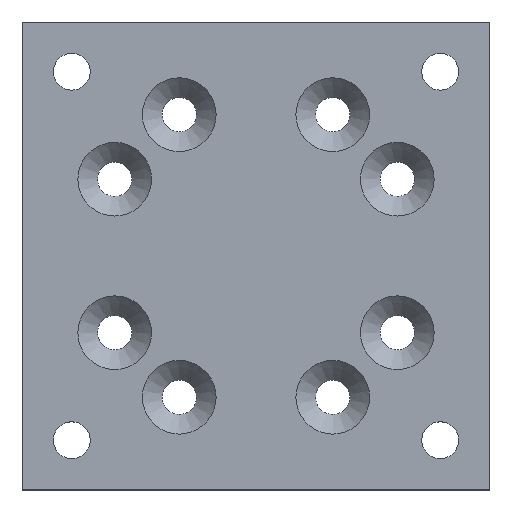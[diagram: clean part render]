
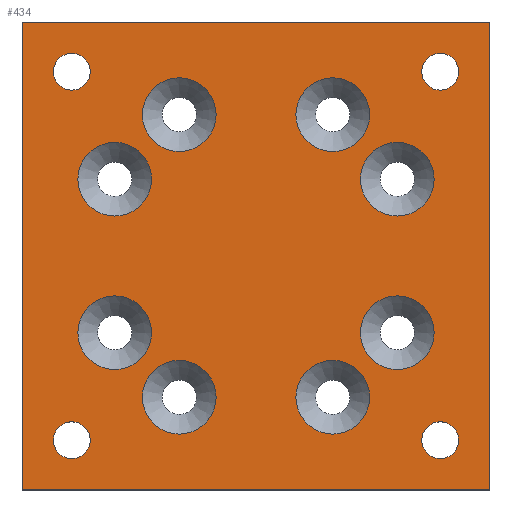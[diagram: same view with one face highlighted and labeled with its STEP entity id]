
A CAD part, top view. The second image highlights one B-rep face of the part: STEP entity #434.
In plain terms, the highlighted planar face has unit normal (0, 0, 1).
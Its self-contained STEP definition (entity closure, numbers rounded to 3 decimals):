
#15=LINE('',#699,#27);
#19=LINE('',#707,#31);
#22=LINE('',#733,#34);
#25=LINE('',#738,#37);
#27=VECTOR('',#585,10.);
#31=VECTOR('',#591,10.);
#34=VECTOR('',#620,10.);
#37=VECTOR('',#625,10.);
#44=PLANE('',#500);
#89=FACE_BOUND('',#185,.T.);
#90=FACE_BOUND('',#186,.T.);
#91=FACE_BOUND('',#187,.T.);
#92=FACE_BOUND('',#188,.T.);
#93=FACE_BOUND('',#189,.T.);
#94=FACE_BOUND('',#190,.T.);
#95=FACE_BOUND('',#191,.T.);
#96=FACE_BOUND('',#192,.T.);
#97=FACE_BOUND('',#193,.T.);
#98=FACE_BOUND('',#194,.T.);
#99=FACE_BOUND('',#195,.T.);
#100=FACE_BOUND('',#196,.T.);
#126=FACE_OUTER_BOUND('',#184,.T.);
#184=EDGE_LOOP('',(#385,#386,#387,#388));
#185=EDGE_LOOP('',(#389));
#186=EDGE_LOOP('',(#390));
#187=EDGE_LOOP('',(#391));
#188=EDGE_LOOP('',(#392));
#189=EDGE_LOOP('',(#393));
#190=EDGE_LOOP('',(#394));
#191=EDGE_LOOP('',(#395));
#192=EDGE_LOOP('',(#396));
#193=EDGE_LOOP('',(#397));
#194=EDGE_LOOP('',(#398));
#195=EDGE_LOOP('',(#399));
#196=EDGE_LOOP('',(#400));
#197=CIRCLE('',#444,3.);
#200=CIRCLE('',#449,3.);
#203=CIRCLE('',#454,3.);
#206=CIRCLE('',#459,3.);
#209=CIRCLE('',#464,3.);
#212=CIRCLE('',#469,3.);
#215=CIRCLE('',#474,3.);
#218=CIRCLE('',#479,3.);
#222=CIRCLE('',#487,1.5);
#224=CIRCLE('',#490,1.5);
#226=CIRCLE('',#493,1.5);
#228=CIRCLE('',#496,1.5);
#229=VERTEX_POINT('',#633);
#232=VERTEX_POINT('',#641);
#235=VERTEX_POINT('',#649);
#238=VERTEX_POINT('',#657);
#241=VERTEX_POINT('',#665);
#244=VERTEX_POINT('',#673);
#247=VERTEX_POINT('',#681);
#250=VERTEX_POINT('',#689);
#253=VERTEX_POINT('',#697);
#254=VERTEX_POINT('',#698);
#257=VERTEX_POINT('',#706);
#260=VERTEX_POINT('',#714);
#262=VERTEX_POINT('',#719);
#264=VERTEX_POINT('',#724);
#266=VERTEX_POINT('',#729);
#267=VERTEX_POINT('',#732);
#269=EDGE_CURVE('',#229,#229,#197,.T.);
#272=EDGE_CURVE('',#232,#232,#200,.T.);
#275=EDGE_CURVE('',#235,#235,#203,.T.);
#278=EDGE_CURVE('',#238,#238,#206,.T.);
#281=EDGE_CURVE('',#241,#241,#209,.T.);
#284=EDGE_CURVE('',#244,#244,#212,.T.);
#287=EDGE_CURVE('',#247,#247,#215,.T.);
#290=EDGE_CURVE('',#250,#250,#218,.T.);
#293=EDGE_CURVE('',#253,#254,#15,.T.);
#297=EDGE_CURVE('',#257,#253,#19,.T.);
#301=EDGE_CURVE('',#260,#260,#222,.F.);
#303=EDGE_CURVE('',#262,#262,#224,.F.);
#305=EDGE_CURVE('',#264,#264,#226,.F.);
#307=EDGE_CURVE('',#266,#266,#228,.F.);
#308=EDGE_CURVE('',#267,#257,#22,.T.);
#311=EDGE_CURVE('',#254,#267,#25,.T.);
#385=ORIENTED_EDGE('',*,*,#297,.T.);
#386=ORIENTED_EDGE('',*,*,#293,.T.);
#387=ORIENTED_EDGE('',*,*,#311,.T.);
#388=ORIENTED_EDGE('',*,*,#308,.T.);
#389=ORIENTED_EDGE('',*,*,#269,.T.);
#390=ORIENTED_EDGE('',*,*,#272,.T.);
#391=ORIENTED_EDGE('',*,*,#275,.T.);
#392=ORIENTED_EDGE('',*,*,#278,.T.);
#393=ORIENTED_EDGE('',*,*,#281,.T.);
#394=ORIENTED_EDGE('',*,*,#284,.T.);
#395=ORIENTED_EDGE('',*,*,#287,.T.);
#396=ORIENTED_EDGE('',*,*,#290,.T.);
#397=ORIENTED_EDGE('',*,*,#307,.T.);
#398=ORIENTED_EDGE('',*,*,#305,.T.);
#399=ORIENTED_EDGE('',*,*,#303,.T.);
#400=ORIENTED_EDGE('',*,*,#301,.T.);
#434=ADVANCED_FACE('',(#126,#89,#90,#91,#92,#93,#94,#95,#96,#97,#98,#99,
#100),#44,.F.);
#444=AXIS2_PLACEMENT_3D('',#634,#505,#506);
#449=AXIS2_PLACEMENT_3D('',#642,#515,#516);
#454=AXIS2_PLACEMENT_3D('',#650,#525,#526);
#459=AXIS2_PLACEMENT_3D('',#658,#535,#536);
#464=AXIS2_PLACEMENT_3D('',#666,#545,#546);
#469=AXIS2_PLACEMENT_3D('',#674,#555,#556);
#474=AXIS2_PLACEMENT_3D('',#682,#565,#566);
#479=AXIS2_PLACEMENT_3D('',#690,#575,#576);
#487=AXIS2_PLACEMENT_3D('',#715,#598,#599);
#490=AXIS2_PLACEMENT_3D('',#720,#604,#605);
#493=AXIS2_PLACEMENT_3D('',#725,#610,#611);
#496=AXIS2_PLACEMENT_3D('',#730,#616,#617);
#500=AXIS2_PLACEMENT_3D('',#741,#629,#630);
#505=DIRECTION('center_axis',(0.,0.,
-1.));
#506=DIRECTION('ref_axis',(0.,-1.,0.));
#515=DIRECTION('center_axis',(0.,0.,
-1.));
#516=DIRECTION('ref_axis',(0.,-1.,0.));
#525=DIRECTION('center_axis',(0.,0.,
-1.));
#526=DIRECTION('ref_axis',(-1.,0.,0.));
#535=DIRECTION('center_axis',(0.,0.,
-1.));
#536=DIRECTION('ref_axis',(-1.,0.,0.));
#545=DIRECTION('center_axis',(0.,0.,
-1.));
#546=DIRECTION('ref_axis',(0.,1.,0.));
#555=DIRECTION('center_axis',(0.,0.,
-1.));
#556=DIRECTION('ref_axis',(0.,1.,0.));
#565=DIRECTION('center_axis',(0.,0.,
-1.));
#566=DIRECTION('ref_axis',(1.,0.,0.));
#575=DIRECTION('center_axis',(0.,0.,
-1.));
#576=DIRECTION('ref_axis',(1.,0.,0.));
#585=DIRECTION('',(1.,0.,0.));
#591=DIRECTION('',(0.,-1.,0.));
#598=DIRECTION('center_axis',(0.,0.,
1.));
#599=DIRECTION('ref_axis',(-1.,0.,0.));
#604=DIRECTION('center_axis',(0.,0.,
1.));
#605=DIRECTION('ref_axis',(-1.,0.,0.));
#610=DIRECTION('center_axis',(0.,0.,
1.));
#611=DIRECTION('ref_axis',(-1.,0.,0.));
#616=DIRECTION('center_axis',(0.,0.,
1.));
#617=DIRECTION('ref_axis',(-1.,0.,0.));
#620=DIRECTION('',(-1.,0.,0.));
#625=DIRECTION('',(0.,1.,0.));
#629=DIRECTION('center_axis',(0.,0.,
-1.));
#630=DIRECTION('ref_axis',(-1.,0.,0.));
#633=CARTESIAN_POINT('',(-25.298,27.556,3.85));
#634=CARTESIAN_POINT('Origin',(-25.298,30.556,3.85));
#641=CARTESIAN_POINT('',(-12.802,27.556,3.85));
#642=CARTESIAN_POINT('Origin',(-12.802,30.556,3.85));
#649=CARTESIAN_POINT('',(-10.544,25.298,3.85));
#650=CARTESIAN_POINT('Origin',(-7.544,25.298,3.85));
#657=CARTESIAN_POINT('',(-10.544,12.802,3.85));
#658=CARTESIAN_POINT('Origin',(-7.544,12.802,3.85));
#665=CARTESIAN_POINT('',(-12.802,10.544,3.85));
#666=CARTESIAN_POINT('Origin',(-12.802,7.544,3.85));
#673=CARTESIAN_POINT('',(-25.298,10.544,3.85));
#674=CARTESIAN_POINT('Origin',(-25.298,7.544,3.85));
#681=CARTESIAN_POINT('',(-27.556,25.298,3.85));
#682=CARTESIAN_POINT('Origin',(-30.556,25.298,3.85));
#689=CARTESIAN_POINT('',(-27.556,12.802,3.85));
#690=CARTESIAN_POINT('Origin',(-30.556,12.802,3.85));
#697=CARTESIAN_POINT('',(-38.1,0.,3.85));
#698=CARTESIAN_POINT('',(0.,0.,3.85));
#699=CARTESIAN_POINT('',(-28.575,0.,3.85));
#706=CARTESIAN_POINT('',(-38.1,38.1,3.85));
#707=CARTESIAN_POINT('',(-38.1,28.575,3.85));
#714=CARTESIAN_POINT('',(-2.55,34.05,3.85));
#715=CARTESIAN_POINT('Origin',(-4.05,34.05,3.85));
#719=CARTESIAN_POINT('',(-32.55,34.05,3.85));
#720=CARTESIAN_POINT('Origin',(-34.05,34.05,3.85));
#724=CARTESIAN_POINT('',(-32.55,4.05,3.85));
#725=CARTESIAN_POINT('Origin',(-34.05,4.05,3.85));
#729=CARTESIAN_POINT('',(-2.55,4.05,3.85));
#730=CARTESIAN_POINT('Origin',(-4.05,4.05,3.85));
#732=CARTESIAN_POINT('',(0.,38.1,3.85));
#733=CARTESIAN_POINT('',(-9.525,38.1,3.85));
#738=CARTESIAN_POINT('',(0.,9.525,3.85));
#741=CARTESIAN_POINT('Origin',(-19.05,19.05,3.85));
